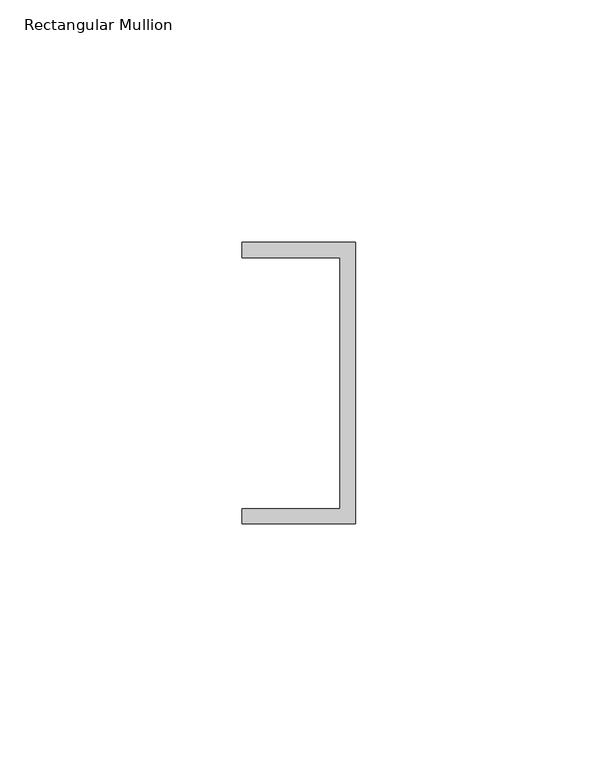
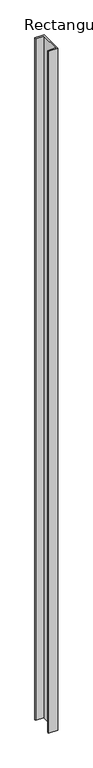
"""IFC4 building model written with IfcOpenShell, lengths in millimetres: member geometry, Rectangular Mullion : Frame-Teknion-Altos-Base_Channel."""

from ifc_helpers import new_model, si_unit, frame, origin, place, context, project, spatial, polyline, outline, extrude, source, transform, mapped, element, save


def rectangular_mullion_43d97840(model_context):
    return source(origin(), model_context, "Body", "SweptSolid", [
        extrude(outline(polyline([(0.0, 29.0214844), (0.0, -29.0214844), (-23.3164063, -29.0214844), (-23.3164063, -25.8464844), (-3.175, -25.8464844), (-3.175, 25.8464844), (-23.3164063, 25.8464844), (-23.3164063, 29.0214844), (0.0, 29.0214844)])), frame((0.0, 0.0, -1800.8203125), z_axis=(0.0, 0.0, 1.0), x_axis=(1.0, 0.0, 0.0)), (0.0, 0.0, 1.0), 1800.8203125),
    ])


if __name__ == "__main__":
    model = new_model("IFC4")
    model_context = context("Model", 3, world=origin())
    ifc_project = project(units=[si_unit("LENGTHUNIT", "METRE", prefix="MILLI")], contexts=[model_context])
    site = spatial("IfcSite", under=ifc_project)
    building = spatial("IfcBuilding", under=site)
    placement = place(None, origin())
    rectangular_mullion_shape = rectangular_mullion_43d97840(model_context)
    element("IfcMember", 1, ObjectType="Rectangular Mullion : Frame-Teknion-Altos-Base_Channel", at=placement, inside=building, context=model_context, shape_type="MappedRepresentation", body=[
        mapped(rectangular_mullion_shape, transform((0.0, 0.0, 0.0), x_axis=(1.0, 0.0, 0.0), y_axis=(0.0, 1.0, 0.0), z_axis=(0.0, 0.0, 1.0))),
    ])
    save(model, "model.ifc")
